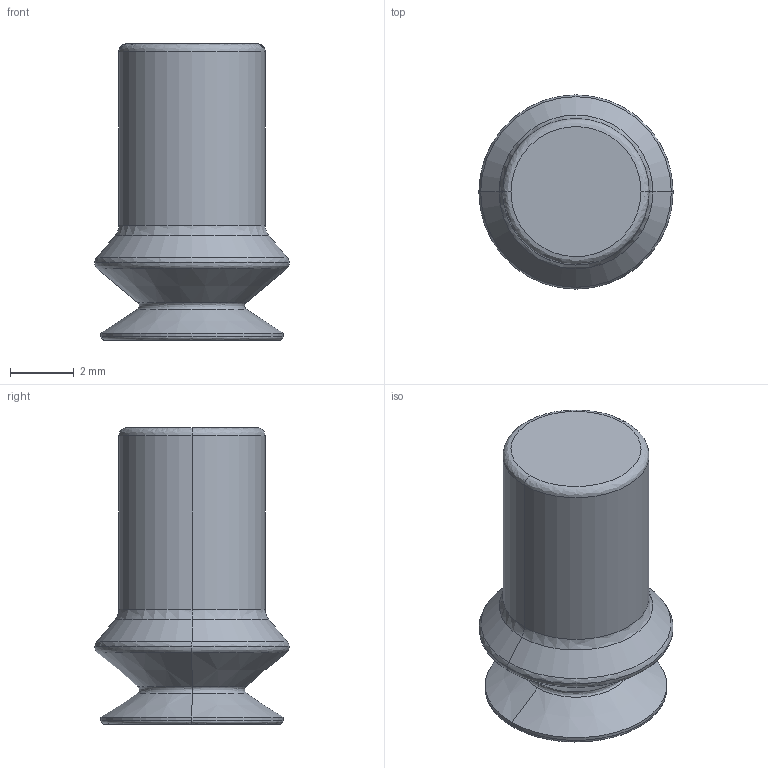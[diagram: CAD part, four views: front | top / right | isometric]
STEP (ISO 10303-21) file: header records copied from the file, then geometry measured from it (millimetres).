
FILE_DESCRIPTION (( 'STEP AP214' ), '1' );
FILE_NAME ('XP-B5.STEP', '2013-10-23T13:06:05', ( 'user' ), ( '' ), 'SwSTEP 2.0', 'SolidWorks 2009', '' );
FILE_SCHEMA (( 'AUTOMOTIVE_DESIGN' ));
Length unit declared in the file: millimetre
Products named in the file (1): XP-B5
Bounding box: 6.07 x 6.07 x 9.27 mm (x, y, z)
Volume: 41 mm3; surface area: 326.7 mm2
Topology: 1 solids, 1 shells, 39 faces, 76 edges, 40 vertices
Faces by surface type: bspline 16, cone 12, cylinder 8, plane 3
Entity records: 1225 total; most frequent: CARTESIAN_POINT 460, DIRECTION 164, ORIENTED_EDGE 152, EDGE_CURVE 76, AXIS2_PLACEMENT_3D 72, CIRCLE 48, EDGE_LOOP 40, VERTEX_POINT 40
